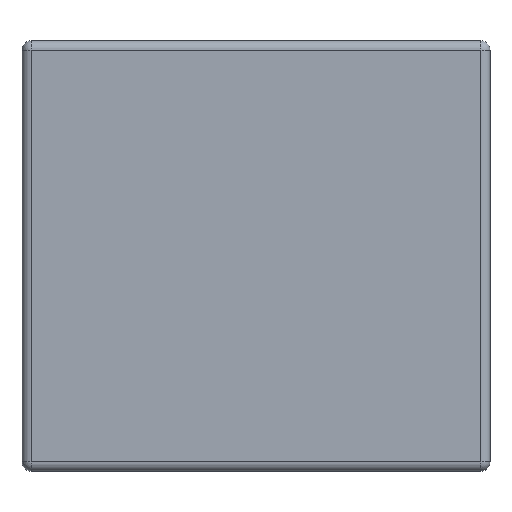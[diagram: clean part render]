
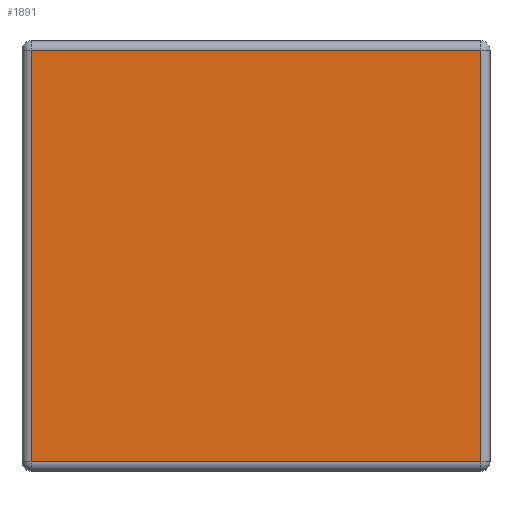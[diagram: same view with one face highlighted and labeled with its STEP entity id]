
A CAD part, front view. The second image highlights one B-rep face of the part: STEP entity #1891.
In plain terms, the highlighted planar face has unit normal (0, -1, 0).
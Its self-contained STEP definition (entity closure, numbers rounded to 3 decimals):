
#481=DIRECTION('',(0.,0.,1.));
#482=VECTOR('',#481,22.);
#483=CARTESIAN_POINT('',(-12.,0.,-11.));
#484=LINE('',#483,#482);
#599=DIRECTION('',(-1.,0.,0.));
#600=VECTOR('',#599,24.);
#601=CARTESIAN_POINT('',(12.,0.,-11.));
#602=LINE('',#601,#600);
#613=DIRECTION('',(0.,0.,-1.));
#614=VECTOR('',#613,22.);
#615=CARTESIAN_POINT('',(12.,0.,11.));
#616=LINE('',#615,#614);
#696=DIRECTION('',(1.,0.,0.));
#697=VECTOR('',#696,24.);
#698=CARTESIAN_POINT('',(-12.,0.,11.));
#699=LINE('',#698,#697);
#1279=CARTESIAN_POINT('',(12.,0.,11.));
#1280=CARTESIAN_POINT('',(12.,0.,-11.));
#1281=VERTEX_POINT('',#1279);
#1282=VERTEX_POINT('',#1280);
#1283=CARTESIAN_POINT('',(-12.,0.,11.));
#1284=VERTEX_POINT('',#1283);
#1285=CARTESIAN_POINT('',(-12.,0.,-11.));
#1286=VERTEX_POINT('',#1285);
#1878=CARTESIAN_POINT('',(0.,0.,0.));
#1879=DIRECTION('',(0.,1.,0.));
#1880=DIRECTION('',(0.,0.,1.));
#1881=AXIS2_PLACEMENT_3D('',#1878,#1879,#1880);
#1882=PLANE('',#1881);
#1884=ORIENTED_EDGE('',*,*,#1883,.T.);
#1885=ORIENTED_EDGE('',*,*,#1870,.T.);
#1886=ORIENTED_EDGE('',*,*,#1763,.T.);
#1888=ORIENTED_EDGE('',*,*,#1887,.T.);
#1889=EDGE_LOOP('',(#1884,#1885,#1886,#1888));
#1890=FACE_OUTER_BOUND('',#1889,.F.);
#1891=ADVANCED_FACE('',(#1890),#1882,.F.);
#1763=EDGE_CURVE('',#1286,#1284,#484,.T.);
#1870=EDGE_CURVE('',#1282,#1286,#602,.T.);
#1883=EDGE_CURVE('',#1281,#1282,#616,.T.);
#1887=EDGE_CURVE('',#1284,#1281,#699,.T.);
